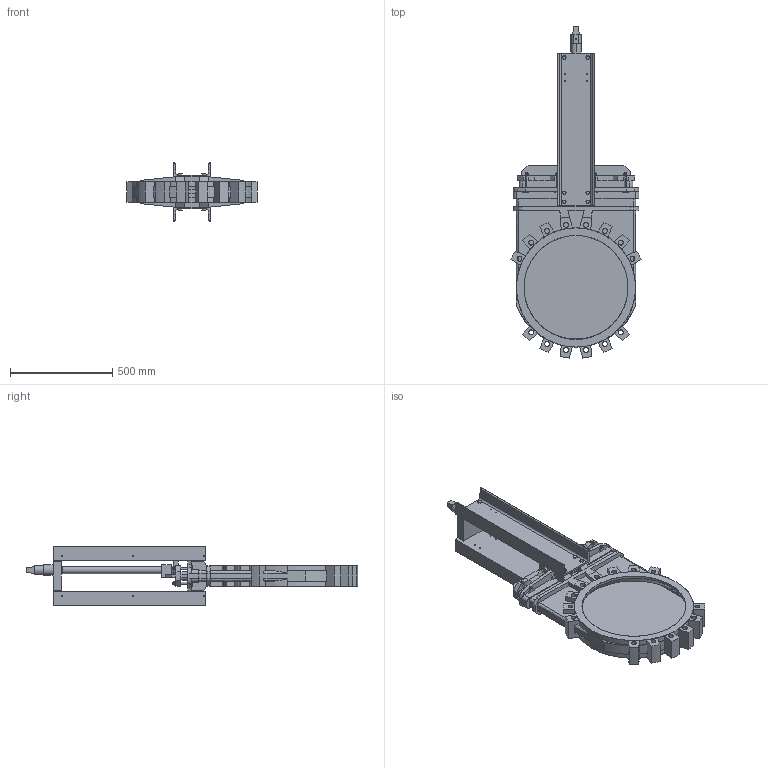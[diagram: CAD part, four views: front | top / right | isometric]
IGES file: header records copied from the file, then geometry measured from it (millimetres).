
Start section: SolidWorks IGES file using analytic representation for surfaces
Global section: file name: D:\part\3D Projects\VG-SQUARE OPERATING NON RASING(DN50-600)\VG S N DN500\VG S N DN500.IGS; native system: SolidWorks 2009; preprocessor: SolidWorks 2009; author: zhixin.zheng; date: 100504.151510; units: millimetre
Bounding box: 635.7 x 1622.04 x 290 mm (x, y, z)
Surface area: 2952108.9 mm2 (no closed solid volume)
Topology: 0 solids, 0 shells, 1098 faces, 11307 edges, 11307 vertices
Faces by surface type: bspline 680, revolution 418
